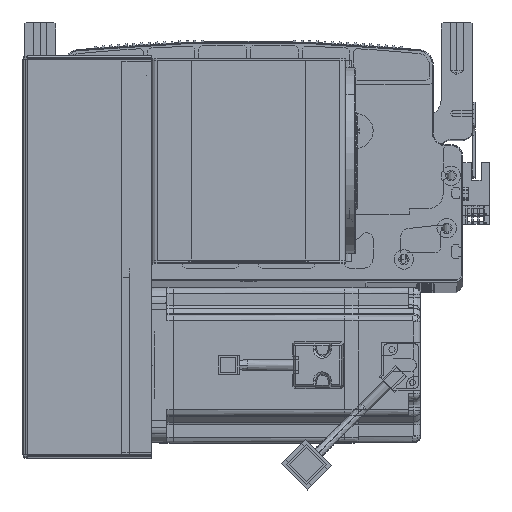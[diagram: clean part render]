
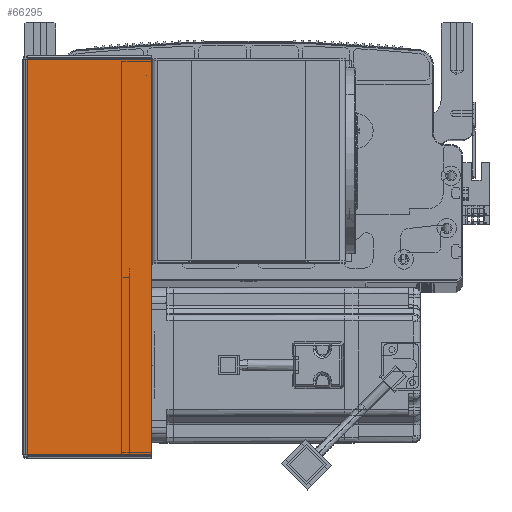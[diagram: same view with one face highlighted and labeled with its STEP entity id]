
A CAD part, top view. The second image highlights one B-rep face of the part: STEP entity #66295.
In plain terms, the highlighted planar face has unit normal (0, 0, 1) as drawn and (0, -1, 0) by its records, which use the part's own axes.
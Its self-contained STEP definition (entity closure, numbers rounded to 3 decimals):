
#55 = CARTESIAN_POINT ( 'NONE',  ( 0.737, -1.5, -0.707 ) ) ;
#4425 = DIRECTION ( 'NONE',  ( 0., 1., 0. ) ) ;
#9548 = EDGE_CURVE ( 'NONE', #39857, #75024, #94452, .T. ) ;
#12034 = PLANE ( 'NONE',  #67107 ) ;
#15163 = CARTESIAN_POINT ( 'NONE',  ( 0., -1.5, -0.707 ) ) ;
#15432 = ORIENTED_EDGE ( 'NONE', *, *, #9548, .T. ) ;
#18923 = CARTESIAN_POINT ( 'NONE',  ( 0.737, -1.5, -203.293 ) ) ;
#20387 = FACE_OUTER_BOUND ( 'NONE', #53102, .T. ) ;
#21813 = DIRECTION ( 'NONE',  ( 1., 0., 0. ) ) ;
#27458 = CARTESIAN_POINT ( 'NONE',  ( 0.737, -1.5, 0. ) ) ;
#33176 = DIRECTION ( 'NONE',  ( -1., 0., 0. ) ) ;
#34491 = CARTESIAN_POINT ( 'NONE',  ( 0., -1.5, 0. ) ) ;
#36475 = VECTOR ( 'NONE', #37367, 1000. ) ;
#36591 = CARTESIAN_POINT ( 'NONE',  ( 0., -1.5, -203.293 ) ) ;
#37367 = DIRECTION ( 'NONE',  ( 0., 0., 1. ) ) ;
#39857 = VERTEX_POINT ( 'NONE', #55881 ) ;
#41240 = LINE ( 'NONE', #27458, #54234 ) ;
#44241 = VECTOR ( 'NONE', #97095, 1000. ) ;
#53102 = EDGE_LOOP ( 'NONE', ( #71084, #66830, #15432, #61411 ) ) ;
#54234 = VECTOR ( 'NONE', #56222, 1000. ) ;
#54243 = EDGE_CURVE ( 'NONE', #61944, #85852, #41240, .T. ) ;
#55881 = CARTESIAN_POINT ( 'NONE',  ( 64.5, -1.5, -203.293 ) ) ;
#56222 = DIRECTION ( 'NONE',  ( 0., 0., 1. ) ) ;
#60146 = CARTESIAN_POINT ( 'NONE',  ( 64.5, -1.5, 0. ) ) ;
#61411 = ORIENTED_EDGE ( 'NONE', *, *, #67132, .F. ) ;
#61944 = VERTEX_POINT ( 'NONE', #18923 ) ;
#64548 = CARTESIAN_POINT ( 'NONE',  ( 64.5, -1.5, -0.707 ) ) ;
#64937 = EDGE_CURVE ( 'NONE', #61944, #39857, #75009, .T. ) ;
#66295 = ADVANCED_FACE ( 'NONE', ( #20387 ), #12034, .F. ) ;
#66830 = ORIENTED_EDGE ( 'NONE', *, *, #64937, .T. ) ;
#67107 = AXIS2_PLACEMENT_3D ( 'NONE', #34491, #4425, #33176 ) ;
#67132 = EDGE_CURVE ( 'NONE', #85852, #75024, #67589, .T. ) ;
#67589 = LINE ( 'NONE', #15163, #87736 ) ;
#71084 = ORIENTED_EDGE ( 'NONE', *, *, #54243, .F. ) ;
#75009 = LINE ( 'NONE', #36591, #44241 ) ;
#75024 = VERTEX_POINT ( 'NONE', #64548 ) ;
#85852 = VERTEX_POINT ( 'NONE', #55 ) ;
#87736 = VECTOR ( 'NONE', #21813, 1000. ) ;
#94452 = LINE ( 'NONE', #60146, #36475 ) ;
#97095 = DIRECTION ( 'NONE',  ( 1., 0., 0. ) ) ;
